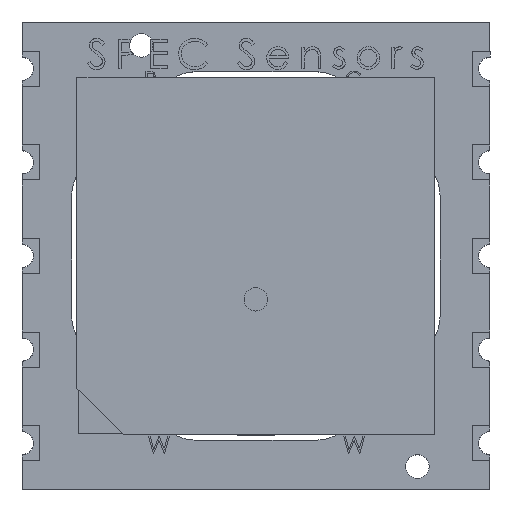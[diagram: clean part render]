
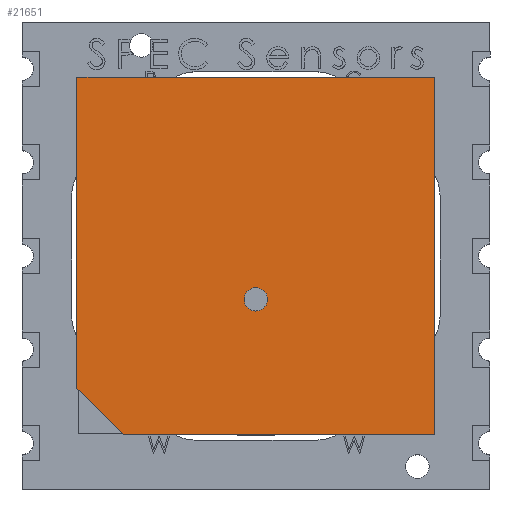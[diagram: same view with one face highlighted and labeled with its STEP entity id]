
A CAD part, top view. The second image highlights one B-rep face of the part: STEP entity #21651.
In plain terms, the highlighted planar face has unit normal (0, 0, 1).
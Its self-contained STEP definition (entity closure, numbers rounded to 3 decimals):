
#232 = CARTESIAN_POINT ( 'NONE',  ( -4.712, 22.389, 0.389 ) ) ;
#1081 = DIRECTION ( 'NONE',  ( 1., 0., 0. ) ) ;
#1239 = ORIENTED_EDGE ( 'NONE', *, *, #1421, .F. ) ;
#1421 = EDGE_CURVE ( 'NONE', #17166, #17166, #6906, .T. ) ;
#1599 = VERTEX_POINT ( 'NONE', #232 ) ;
#2748 = FACE_OUTER_BOUND ( 'NONE', #26580, .T. ) ;
#2773 = LINE ( 'NONE', #16363, #6321 ) ;
#3161 = CARTESIAN_POINT ( 'NONE',  ( 0., 0., 0.389 ) ) ;
#3777 = EDGE_CURVE ( 'NONE', #26275, #21076, #11874, .T. ) ;
#3833 = AXIS2_PLACEMENT_3D ( 'NONE', #3161, #7586, #7482 ) ;
#5316 = LINE ( 'NONE', #17190, #16531 ) ;
#5755 = CARTESIAN_POINT ( 'NONE',  ( -20.012, 22.389, 0.389 ) ) ;
#5911 = VECTOR ( 'NONE', #1081, 1000. ) ;
#6057 = AXIS2_PLACEMENT_3D ( 'NONE', #19248, #17041, #28035 ) ;
#6321 = VECTOR ( 'NONE', #9739, 1000. ) ;
#6782 = LINE ( 'NONE', #17124, #11361 ) ;
#6906 = CIRCLE ( 'NONE', #6057, 0.5 ) ;
#7482 = DIRECTION ( 'NONE',  ( 1., 0., 0. ) ) ;
#7586 = DIRECTION ( 'NONE',  ( 0., 0., 1. ) ) ;
#8472 = EDGE_LOOP ( 'NONE', ( #1239 ) ) ;
#9146 = DIRECTION ( 'NONE',  ( -1., 0., 0. ) ) ;
#9685 = PLANE ( 'NONE',  #3833 ) ;
#9739 = DIRECTION ( 'NONE',  ( 0.707, -0.707, 0. ) ) ;
#11361 = VECTOR ( 'NONE', #26288, 1000. ) ;
#11874 = LINE ( 'NONE', #11981, #5911 ) ;
#11981 = CARTESIAN_POINT ( 'NONE',  ( -18.012, 7.089, 0.389 ) ) ;
#12230 = ORIENTED_EDGE ( 'NONE', *, *, #16544, .T. ) ;
#12941 = VERTEX_POINT ( 'NONE', #25249 ) ;
#16340 = CARTESIAN_POINT ( 'NONE',  ( -4.712, 7.089, 0.389 ) ) ;
#16363 = CARTESIAN_POINT ( 'NONE',  ( -20.012, 9.089, 0.389 ) ) ;
#16447 = EDGE_CURVE ( 'NONE', #12941, #26275, #2773, .T. ) ;
#16531 = VECTOR ( 'NONE', #9146, 1000. ) ;
#16544 = EDGE_CURVE ( 'NONE', #21195, #12941, #19917, .T. ) ;
#17041 = DIRECTION ( 'NONE',  ( 0., 0., 1. ) ) ;
#17124 = CARTESIAN_POINT ( 'NONE',  ( -4.712, 22.389, 0.389 ) ) ;
#17166 = VERTEX_POINT ( 'NONE', #19762 ) ;
#17190 = CARTESIAN_POINT ( 'NONE',  ( -20.012, 22.389, 0.389 ) ) ;
#17743 = ORIENTED_EDGE ( 'NONE', *, *, #16447, .T. ) ;
#18170 = FACE_BOUND ( 'NONE', #8472, .T. ) ;
#18372 = CARTESIAN_POINT ( 'NONE',  ( -18.012, 7.089, 0.389 ) ) ;
#19248 = CARTESIAN_POINT ( 'NONE',  ( -12.362, 12.884, 0.389 ) ) ;
#19679 = CARTESIAN_POINT ( 'NONE',  ( -20.012, 22.389, 0.389 ) ) ;
#19762 = CARTESIAN_POINT ( 'NONE',  ( -11.862, 12.884, 0.389 ) ) ;
#19917 = LINE ( 'NONE', #19679, #24487 ) ;
#20171 = ORIENTED_EDGE ( 'NONE', *, *, #26511, .T. ) ;
#21076 = VERTEX_POINT ( 'NONE', #16340 ) ;
#21195 = VERTEX_POINT ( 'NONE', #5755 ) ;
#21651 = ADVANCED_FACE ( 'NONE', ( #18170, #2748 ), #9685, .T. ) ;
#23762 = ORIENTED_EDGE ( 'NONE', *, *, #27051, .T. ) ;
#24487 = VECTOR ( 'NONE', #28491, 1000. ) ;
#25249 = CARTESIAN_POINT ( 'NONE',  ( -20.012, 9.089, 0.389 ) ) ;
#26275 = VERTEX_POINT ( 'NONE', #18372 ) ;
#26288 = DIRECTION ( 'NONE',  ( 0., 1., 0. ) ) ;
#26511 = EDGE_CURVE ( 'NONE', #21076, #1599, #6782, .T. ) ;
#26580 = EDGE_LOOP ( 'NONE', ( #20171, #23762, #12230, #17743, #26716 ) ) ;
#26716 = ORIENTED_EDGE ( 'NONE', *, *, #3777, .T. ) ;
#27051 = EDGE_CURVE ( 'NONE', #1599, #21195, #5316, .T. ) ;
#28035 = DIRECTION ( 'NONE',  ( 1., 0., 0. ) ) ;
#28491 = DIRECTION ( 'NONE',  ( 0., -1., 0. ) ) ;
